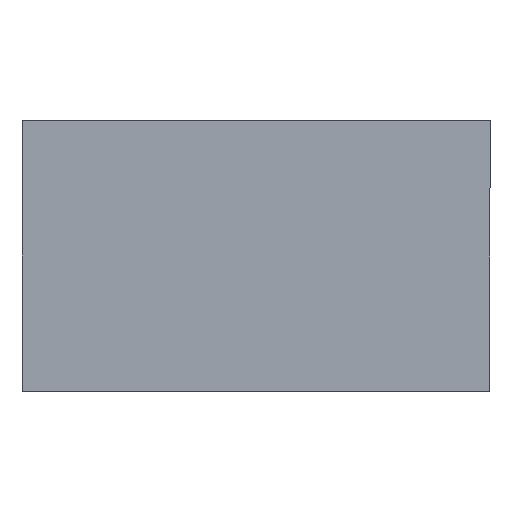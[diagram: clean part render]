
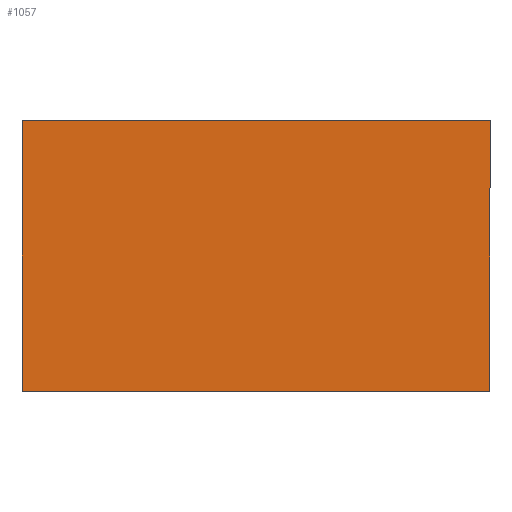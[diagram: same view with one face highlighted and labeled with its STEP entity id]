
A CAD part, front view. The second image highlights one B-rep face of the part: STEP entity #1057.
In plain terms, the highlighted planar face has unit normal (0, -1, 0).
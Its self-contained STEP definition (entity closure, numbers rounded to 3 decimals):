
#2 = CARTESIAN_POINT ( 'NONE',  ( -20.3, -9.6, 11.75 ) ) ;
#32 = FACE_OUTER_BOUND ( 'NONE', #1159, .T. ) ;
#47 = CARTESIAN_POINT ( 'NONE',  ( -20.3, -9.6, -11.75 ) ) ;
#60 = ORIENTED_EDGE ( 'NONE', *, *, #769, .F. ) ;
#81 = AXIS2_PLACEMENT_3D ( 'NONE', #450, #975, #1178 ) ;
#147 = DIRECTION ( 'NONE',  ( 0., 0., 1. ) ) ;
#235 = LINE ( 'NONE', #2, #818 ) ;
#256 = ORIENTED_EDGE ( 'NONE', *, *, #884, .F. ) ;
#353 = CARTESIAN_POINT ( 'NONE',  ( 20.3, -9.6, -11.75 ) ) ;
#389 = ORIENTED_EDGE ( 'NONE', *, *, #1056, .F. ) ;
#397 = LINE ( 'NONE', #47, #1264 ) ;
#400 = DIRECTION ( 'NONE',  ( 1., 0., 0. ) ) ;
#403 = DIRECTION ( 'NONE',  ( 0., 0., -1. ) ) ;
#407 = VERTEX_POINT ( 'NONE', #711 ) ;
#450 = CARTESIAN_POINT ( 'NONE',  ( -20.3, -9.6, 11.75 ) ) ;
#454 = PLANE ( 'NONE',  #81 ) ;
#472 = VERTEX_POINT ( 'NONE', #938 ) ;
#564 = VECTOR ( 'NONE', #1079, 1000. ) ;
#613 = VECTOR ( 'NONE', #403, 1000. ) ;
#711 = CARTESIAN_POINT ( 'NONE',  ( -20.3, -9.6, 11.75 ) ) ;
#724 = LINE ( 'NONE', #809, #613 ) ;
#769 = EDGE_CURVE ( 'NONE', #472, #1111, #724, .T. ) ;
#809 = CARTESIAN_POINT ( 'NONE',  ( 20.3, -9.6, -11.75 ) ) ;
#818 = VECTOR ( 'NONE', #400, 1000. ) ;
#848 = CARTESIAN_POINT ( 'NONE',  ( -20.3, -9.6, -11.75 ) ) ;
#884 = EDGE_CURVE ( 'NONE', #407, #472, #235, .T. ) ;
#938 = CARTESIAN_POINT ( 'NONE',  ( 20.3, -9.6, 11.75 ) ) ;
#963 = ORIENTED_EDGE ( 'NONE', *, *, #1048, .F. ) ;
#975 = DIRECTION ( 'NONE',  ( 0., 1., 0. ) ) ;
#1048 = EDGE_CURVE ( 'NONE', #1259, #407, #397, .T. ) ;
#1056 = EDGE_CURVE ( 'NONE', #1111, #1259, #1331, .T. ) ;
#1057 = ADVANCED_FACE ( 'NONE', ( #32 ), #454, .F. ) ;
#1079 = DIRECTION ( 'NONE',  ( -1., 0., 0. ) ) ;
#1109 = CARTESIAN_POINT ( 'NONE',  ( -20.3, -9.6, -11.75 ) ) ;
#1111 = VERTEX_POINT ( 'NONE', #353 ) ;
#1159 = EDGE_LOOP ( 'NONE', ( #963, #389, #60, #256 ) ) ;
#1178 = DIRECTION ( 'NONE',  ( 0., 0., 1. ) ) ;
#1259 = VERTEX_POINT ( 'NONE', #1109 ) ;
#1264 = VECTOR ( 'NONE', #147, 1000. ) ;
#1331 = LINE ( 'NONE', #848, #564 ) ;
